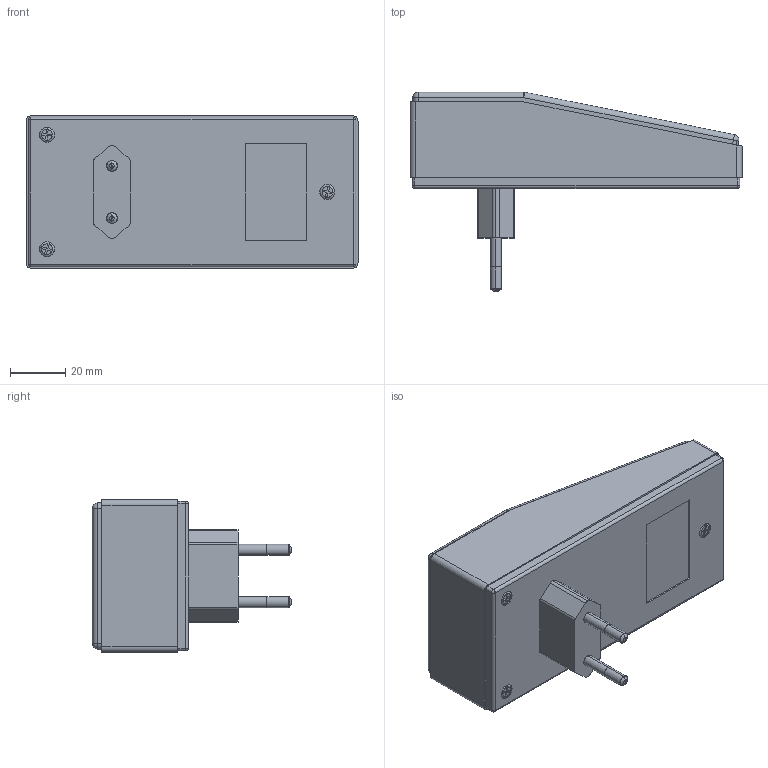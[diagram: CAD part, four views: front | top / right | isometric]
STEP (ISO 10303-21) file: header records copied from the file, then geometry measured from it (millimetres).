
FILE_DESCRIPTION (( 'STEP AP214' ), '1' );
FILE_NAME ('Conjunt PP59.STEP', '2019-09-09T14:44:27', ( 'aaa' ), ( '' ), 'SwSTEP 2.0', 'SolidWorks 2014', '' );
FILE_SCHEMA (( 'AUTOMOTIVE_DESIGN' ));
Length unit declared in the file: millimetre
Products named in the file (5): Conjunt PP59; Cargol M 3x20 PP59; Cargol 2,1x6,5 PP59; Tapa PP59; Cuerpo PP59
Assembly tree (7 placements, depth 2):
  Conjunt PP59
    Cuerpo PP59
    Tapa PP59
    Cargol 2,1x6,5 PP59  x2
    Cargol M 3x20 PP59  x3
Bounding box: 120.5 x 72.4 x 55.4 mm (x, y, z)
Volume: 50905.3 mm3; surface area: 54256.8 mm2
Topology: 9 solids, 9 shells, 818 faces, 1750 edges, 983 vertices
Faces by surface type: cone 476, plane 179, cylinder 139, torus 14, sphere 10
Entity records: 12747 total; most frequent: DIRECTION 2328, CARTESIAN_POINT 2055, ORIENTED_EDGE 1940, EDGE_CURVE 970, AXIS2_PLACEMENT_3D 909, VERTEX_POINT 576, LINE 510, VECTOR 510
